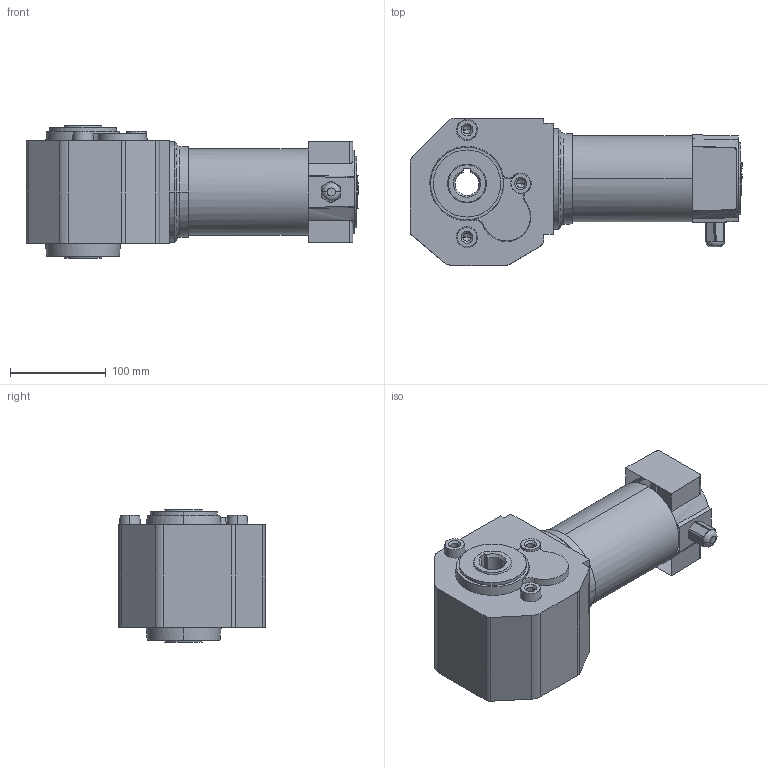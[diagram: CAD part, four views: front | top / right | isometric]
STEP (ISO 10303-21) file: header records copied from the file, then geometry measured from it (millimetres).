
FILE_DESCRIPTION(('OneSpaceDesigner STEP Export'),'2;1');
FILE_NAME('EPG23_ZB48.stp','2008-07-22T11:03:18',(''),(''),'OneSpace Designer STEP processor (Jan. 2003) for AP214(CD)(Solid Model)','OneSpace Designer 12.01D 09-Jul-2004 (C) CoCreate Software GmbH','');
FILE_SCHEMA(('AUTOMOTIVE_DESIGN_CC2 {1 2 10303 214 -1 1 5 1}'));
Length unit declared in the file: millimetre
Products named in the file (2): EPG23_ZB48
Assembly tree (1 placements, depth 2):
  EPG23_ZB48
    EPG23_ZB48
Bounding box: 346.5 x 153.5 x 138 mm (x, y, z)
Volume: 3634815.3 mm3; surface area: 183618.7 mm2
Topology: 1 solids, 1 shells, 147 faces, 369 edges, 239 vertices
Faces by surface type: plane 57, cylinder 39, cone 24, bspline 23, torus 4
Entity records: 15868 total; most frequent: CARTESIAN_POINT 12726, ORIENTED_EDGE 726, DIRECTION 462, EDGE_CURVE 363, VERTEX_POINT 239, EDGE_LOOP 170, AXIS2_PLACEMENT_3D 157, VECTOR 148
